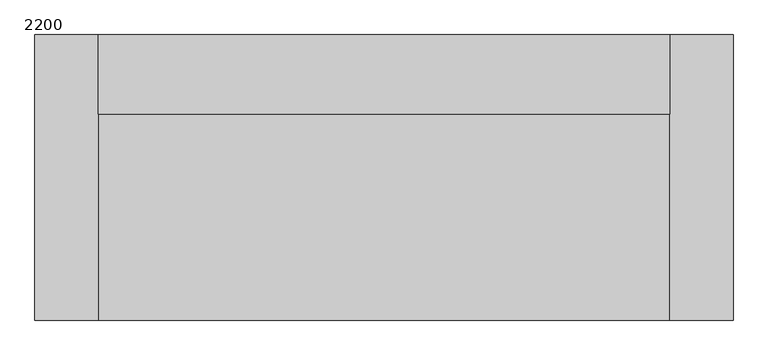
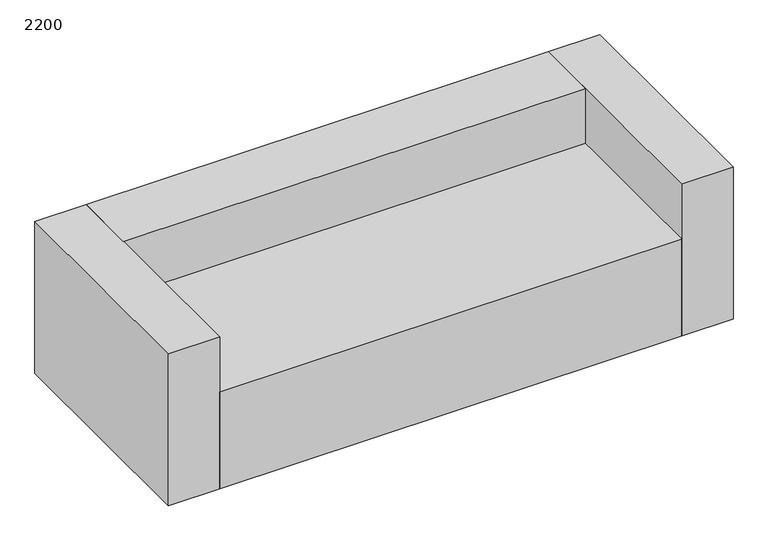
"""IFC4 building model written with IfcOpenShell, lengths in millimetres: furniture geometry, Fu_диван_LEG : 2200."""

from ifc_helpers import new_model, si_unit, origin, origin_with_axes, place, context, project, spatial, polyline, outline, extrude, source, transform, mapped, element, save


def furniture_2200_2217fce5(model_context):
    return source(origin(), model_context, "Body", "SweptSolid", [
        extrude(outline(polyline([(1773.3737705, 916.7770492), (1773.3737705, 666.7770492), (-26.6262295, 666.7770492), (-26.6262295, 916.7770492), (1773.3737705, 916.7770492)])), origin_with_axes(), (0.0, 0.0, 1.0), 625.0),
        extrude(outline(polyline([(1973.3737705, 916.7770492), (1973.3737705, 16.7770492), (1773.3737705, 16.7770492), (1773.3737705, 916.7770492), (1973.3737705, 916.7770492)])), origin_with_axes(), (0.0, 0.0, 1.0), 625.0),
        extrude(outline(polyline([(-26.6262295, 916.7770492), (-26.6262295, 16.7770492), (-226.6262295, 16.7770492), (-226.6262295, 916.7770492), (-26.6262295, 916.7770492)])), origin_with_axes(), (0.0, 0.0, 1.0), 625.0),
        extrude(outline(polyline([(1773.3737705, 16.7770492), (-26.6262295, 16.7770492), (-26.6262295, 666.7770492), (1773.3737705, 666.7770492), (1773.3737705, 16.7770492)])), origin_with_axes(), (0.0, 0.0, 1.0), 400.0),
    ])


if __name__ == "__main__":
    model = new_model("IFC4")
    model_context = context("Model", 3, world=origin())
    ifc_project = project(units=[si_unit("LENGTHUNIT", "METRE", prefix="MILLI")], contexts=[model_context])
    site = spatial("IfcSite", under=ifc_project)
    building = spatial("IfcBuilding", under=site)
    placement = place(None, origin())
    furniture_2200_shape = furniture_2200_2217fce5(model_context)
    element("IfcFurniture", 1, ObjectType="Fu_диван_LEG : 2200", at=placement, inside=building, context=model_context, shape_type="MappedRepresentation", body=[
        mapped(furniture_2200_shape, transform((0.0, 0.0, 0.0), x_axis=(1.0, 0.0, 0.0), y_axis=(0.0, 1.0, 0.0), z_axis=(0.0, 0.0, 1.0))),
    ])
    save(model, "model.ifc")
